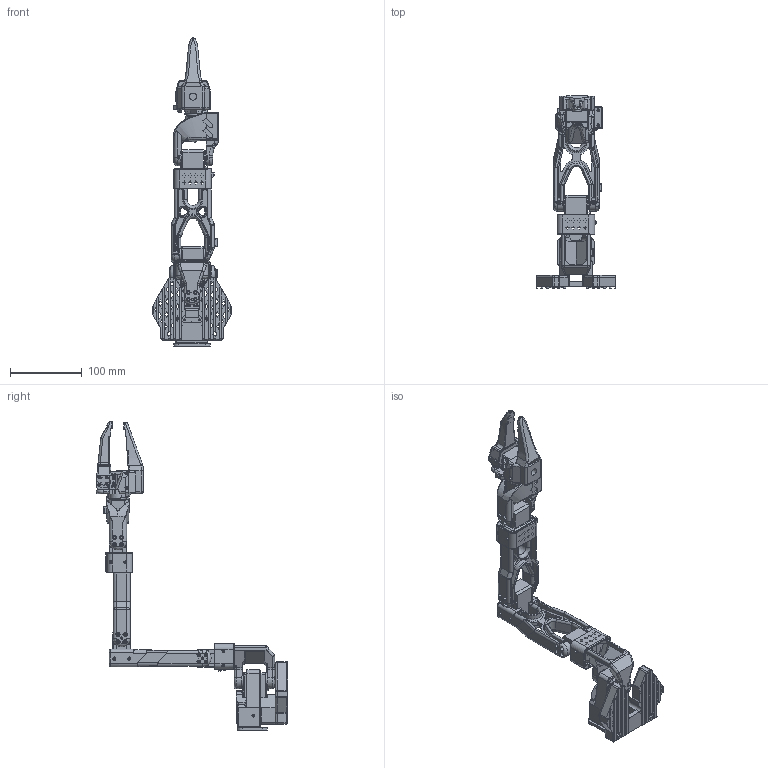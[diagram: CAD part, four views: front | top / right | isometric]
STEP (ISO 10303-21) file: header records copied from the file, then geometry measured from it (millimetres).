
FILE_DESCRIPTION(/* description */ (''),/* implementation_level */ '2;1');
FILE_NAME(/* name */ '',/* time_stamp */ '2025-09-22T20:04:21+08:00',/* author */ (''),/* organization */ (''),/* preprocessor_version */ 'ST-DEVELOPER v20.1',/* originating_system */ 'Autodesk Translation Framework v14.17.0.0',/* authorisation */ '');
FILE_SCHEMA (('AUTOMOTIVE_DESIGN { 1 0 10303 214 3 1 1 }'));
Products named in the file (13): Base_SO101; Rotation_Pitch_SO101; Upper_arm_SO101; Under_arm_SO101; Motor_holder_SO101_Base; Base_motor_holder_SO101; Motor_holder_SO101_Wrist; Wrist_Roll_Pitch_SO101; STS3215_03a; Wrist_Roll_Follower_SO101; STS3215_03a_1; Moving_Jaw_SO101; WaveShare_Mounting_Plate_SO101
Assembly tree (16 placements, depth 2):
  Base_SO101
    STS3215_03a_1  x5
    Rotation_Pitch_SO101
    Upper_arm_SO101
    Under_arm_SO101
    Motor_holder_SO101_Base
    Base_motor_holder_SO101
    Motor_holder_SO101_Wrist
    Wrist_Roll_Pitch_SO101
    STS3215_03a
    Wrist_Roll_Follower_SO101
    Moving_Jaw_SO101
    WaveShare_Mounting_Plate_SO101
Bounding box: 110.92 x 267.17 x 429.82 mm (x, y, z)
Volume: 665358.9 mm3; surface area: 272532.1 mm2
Topology: 17 solids, 19 shells, 4439 faces, 11870 edges, 7471 vertices
Faces by surface type: plane 2619, cylinder 1200, bspline 306, torus 181, cone 83, sphere 50
Full cylindrical faces by diameter (mm): 1.5 x48, 2 x38, 2.5 x50, 3.2 x10, 3.5 x12, 4 x2, 4.8 x6, 5.4 x8, 6 x11, 9 x6, 10 x1, 15 x1, 20 x11
Entity records: 138899 total; most frequent: CARTESIAN_POINT 44655, ORIENTED_EDGE 20208, DIRECTION 18799, EDGE_CURVE 10104, LINE 6501, VECTOR 6501, VERTEX_POINT 6367, AXIS2_PLACEMENT_3D 6149
